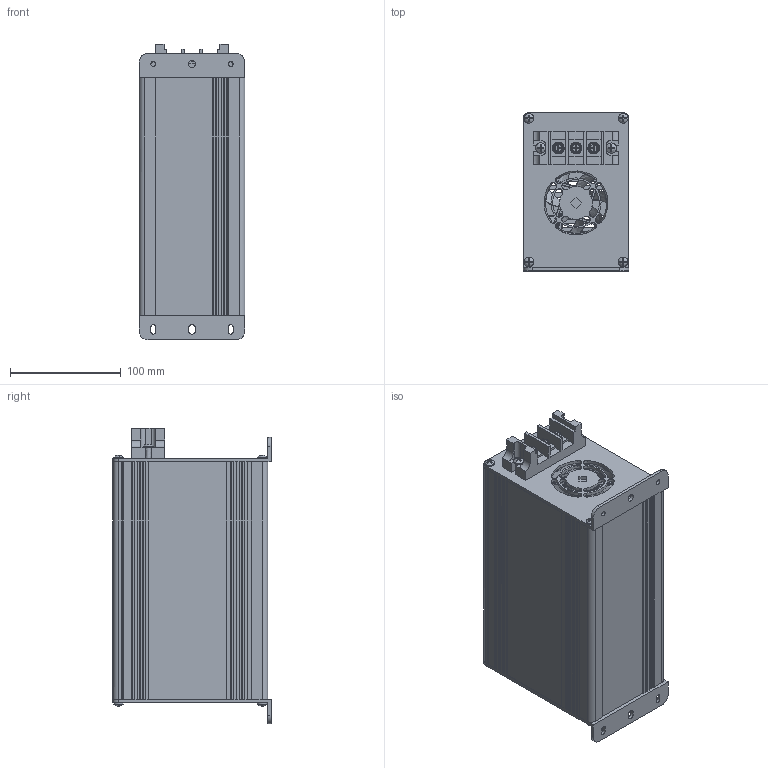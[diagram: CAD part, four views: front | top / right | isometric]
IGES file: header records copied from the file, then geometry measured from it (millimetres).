
Global section: file name: DV215; native system: Autodesk Inventor 2021; preprocessor: unknown; author: eunsol jang; date: 20220616.125631; units: inch
Bounding box: 95.5 x 142.98 x 267.5 mm (x, y, z)
Volume: 459719.6 mm3; surface area: 313292.4 mm2
Topology: 1 solids, 1 shells, 1132 faces, 3211 edges, 2096 vertices
Faces by surface type: bspline 1132
